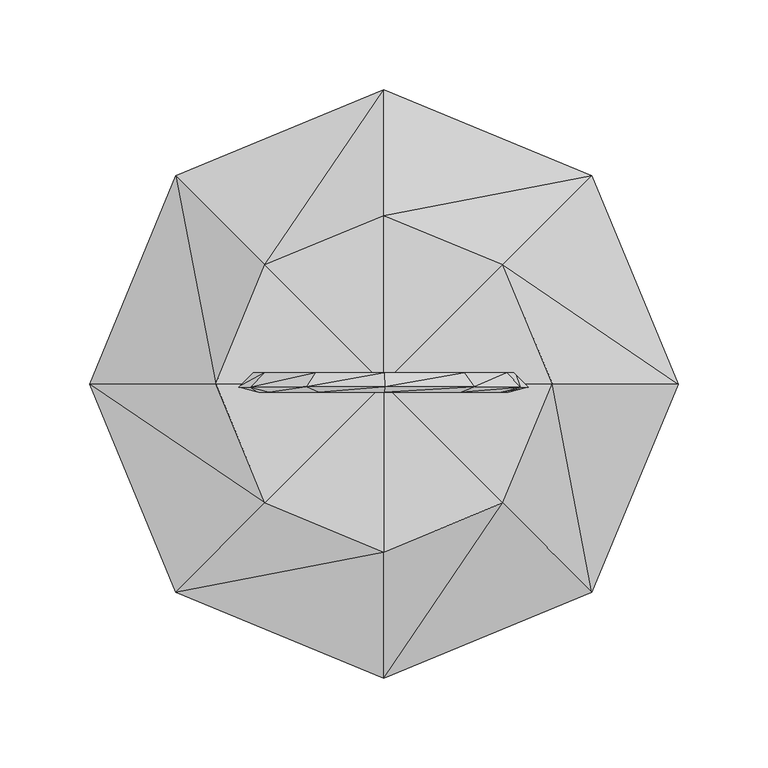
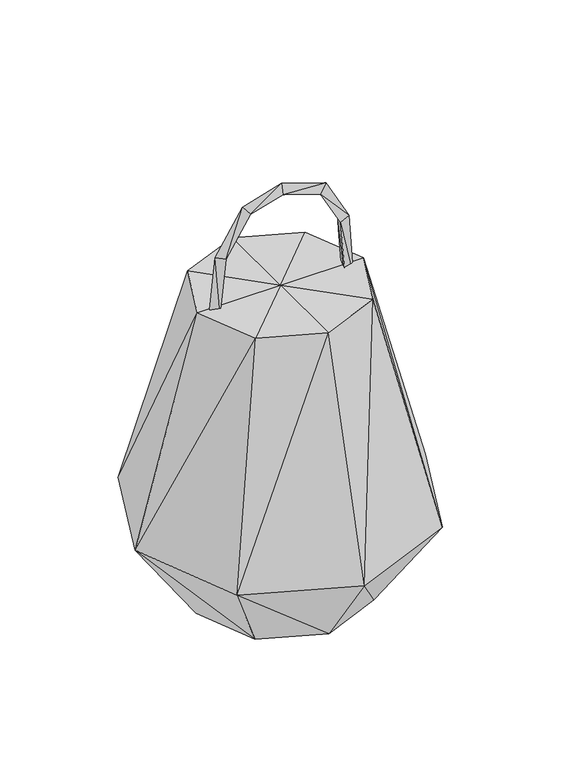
"""IFC4 building model written with IfcOpenShell, lengths in millimetres: geographic element geometry, Enscape AssetDefinition - Candle Lantern 02 : Enscape AssetDefinition - Candle Lantern 02."""

import ifcopenshell
import ifcopenshell.guid

model = None  # the IFC model being written
_history = None  # IfcOwnerHistory: only IFC2X3 demands one
_inside = {}  # id of a spatial element -> (the spatial element, [elements in it])
_under = {}  # id of a project, library or spatial element -> (it, [spatial elements below it])
_declared = {}  # id of a project -> (the project, [libraries it declares])
_typed = {}  # id of a type object -> (the type object, [elements of that type])
_made_of = {}  # id of a material, layer set ... -> (it, [elements and type objects made of it])


def new_model(schema):
    """Start an empty IFC model of exactly this schema.

    Asked for "IFC4X3", IfcOpenShell would pick the latest addendum, in which some entities
    have other attributes; the version numbers below select the first issue.
    IFC2X3 requires an IfcOwnerHistory on every rooted entity: one is made here for all.
    """
    global model, _history
    if schema == "IFC4X3":
        model = ifcopenshell.file(schema_version=(4, 3, 0, 0))
    else:
        model = ifcopenshell.file(schema=schema)
    _inside.clear()
    _under.clear()
    _declared.clear()
    _typed.clear()
    _made_of.clear()
    _history = None
    if model.schema == "IFC2X3":
        org = make("IfcOrganization", Name="unknown")
        user = make(
            "IfcPersonAndOrganization",
            ThePerson=make("IfcPerson", FamilyName="unknown"),
            TheOrganization=org,
        )
        app = make(
            "IfcApplication",
            ApplicationDeveloper=org,
            Version="unknown",
            ApplicationFullName="unknown",
            ApplicationIdentifier="unknown",
        )
        _history = make(
            "IfcOwnerHistory",
            OwningUser=user,
            OwningApplication=app,
            ChangeAction="ADDED",
            CreationDate=0,
        )
    return model


def make(cls, **values):
    """One entity of the class cls with the attributes given. An attribute that is None is left unset."""
    return model.create_entity(
        cls, **{name: value for name, value in values.items() if value is not None}
    )


def rooted(cls, **values):
    """An entity with a GlobalId (a new one), such as an element, a storey or a relation."""
    return make(cls, GlobalId=ifcopenshell.guid.new(), OwnerHistory=_history, **values)


def si_unit(unit_type, name, prefix=None):
    """IfcSIUnit, for example si_unit("LENGTHUNIT", "METRE", prefix="MILLI")."""
    return make("IfcSIUnit", UnitType=unit_type, Prefix=prefix, Name=name)


def assignment(units):
    """IfcUnitAssignment: the units of a project."""
    return None if units is None else make("IfcUnitAssignment", Units=units)


def point(xyz):
    """IfcCartesianPoint."""
    return None if xyz is None else make("IfcCartesianPoint", Coordinates=xyz)


def direction(xyz):
    """IfcDirection."""
    return None if xyz is None else make("IfcDirection", DirectionRatios=xyz)


def frame(location, z_axis=None, x_axis=None):
    """IfcAxis2Placement3D, a coordinate frame: its origin and axes. An axis left out is left unset."""
    return make(
        "IfcAxis2Placement3D",
        Location=point(location),
        Axis=direction(z_axis),
        RefDirection=direction(x_axis),
    )


def origin():
    """The frame at (0, 0, 0) with its axes left unset."""
    return frame((0.0, 0.0, 0.0))


def place(relative_to, where):
    """IfcLocalPlacement: puts the frame where relative to a parent placement (None: the world)."""
    return make(
        "IfcLocalPlacement", PlacementRelTo=relative_to, RelativePlacement=where
    )


def context(
    kind, dimensions, precision=None, world=None, true_north=None, identifier=None
):
    """IfcGeometricRepresentationContext, for example the 3D "Model" context."""
    return make(
        "IfcGeometricRepresentationContext",
        ContextIdentifier=identifier,
        ContextType=kind,
        CoordinateSpaceDimension=dimensions,
        Precision=precision,
        WorldCoordinateSystem=world,
        TrueNorth=true_north,
    )


def project(units=None, contexts=None):
    """IfcProject with its units and contexts."""
    return rooted(
        "IfcProject",
        Name="project",
        RepresentationContexts=contexts,
        UnitsInContext=assignment(units),
    )


def spatial(cls, under=None, at=None, **own):
    """A site, building, storey or space (cls), placed at a placement, below another one or the project."""
    s = rooted(cls, ObjectPlacement=at, **own)
    if under is not None:
        _under.setdefault(under.id(), (under, []))[1].append(s)
    return s


def faces_of(points, faces, orient=None, outer=None):
    """IfcFace entities. A face is a list of loops; a loop is a list of indices into points, from 0.

    orient and outer hold one flag for each loop. By default every Orientation is true, the
    first loop of a face is its IfcFaceOuterBound and the others are IfcFaceBound.
    """
    made = []
    for i, loops in enumerate(faces):
        bounds = []
        for j, loop in enumerate(loops):
            is_outer = j == 0 if outer is None else outer[i][j]
            bounds.append(
                make(
                    "IfcFaceOuterBound" if is_outer else "IfcFaceBound",
                    Bound=make("IfcPolyLoop", Polygon=[points[k] for k in loop]),
                    Orientation=True if orient is None else orient[i][j],
                )
            )
        made.append(make("IfcFace", Bounds=bounds))
    return made


def faceted_brep(points, faces, orient=None, outer=None, voids=None):
    """IfcFacetedBrep: a solid bounded by flat faces; with voids (closed shells), ...WithVoids."""
    shared = [point(p) for p in points]
    hull = make("IfcClosedShell", CfsFaces=faces_of(shared, faces, orient, outer))
    if voids is None:
        return make("IfcFacetedBrep", Outer=hull)
    return make(
        "IfcFacetedBrepWithVoids",
        Outer=hull,
        Voids=[
            make(cls, CfsFaces=faces_of(shared, fs, o, b)) for cls, fs, o, b in voids
        ],
    )


def shape(context_of_items, identifier, shape_type, items):
    """IfcShapeRepresentation: the items that make up one representation, for example the "Body"."""
    return make(
        "IfcShapeRepresentation",
        ContextOfItems=context_of_items,
        RepresentationIdentifier=identifier,
        RepresentationType=shape_type,
        Items=items,
    )


def source(mapping_origin, context_of_items, identifier, shape_type, items):
    """IfcRepresentationMap: a shape defined once, which mapped items show again and again."""
    return make(
        "IfcRepresentationMap",
        MappingOrigin=mapping_origin,
        MappedRepresentation=shape(context_of_items, identifier, shape_type, items),
    )


def transform(
    local_origin,
    x_axis=None,
    y_axis=None,
    z_axis=None,
    scale=None,
    scale2=None,
    scale3=None,
    uniform=True,
):
    """IfcCartesianTransformationOperator3D, or its non-uniform kind. x_axis, y_axis, z_axis: its Axis1, 2, 3."""
    if uniform:
        return make(
            "IfcCartesianTransformationOperator3D",
            Axis1=direction(x_axis),
            Axis2=direction(y_axis),
            LocalOrigin=point(local_origin),
            Scale=scale,
            Axis3=direction(z_axis),
        )
    return make(
        "IfcCartesianTransformationOperator3DnonUniform",
        Axis1=direction(x_axis),
        Axis2=direction(y_axis),
        LocalOrigin=point(local_origin),
        Scale=scale,
        Axis3=direction(z_axis),
        Scale2=scale2,
        Scale3=scale3,
    )


def mapped(mapping_source, mapping_target):
    """IfcMappedItem: shows the shape of a source again, moved by a transform."""
    return make(
        "IfcMappedItem", MappingSource=mapping_source, MappingTarget=mapping_target
    )


def made_of(thing, what):
    """Note that an element or type object is made of a material, layer set ...; save() writes the relation."""
    if what is not None:
        _made_of.setdefault(what.id(), (what, []))[1].append(thing)
    return thing


def element(
    cls,
    number,
    at=None,
    inside=None,
    cuts=None,
    type_object=None,
    material=None,
    context=None,
    identifier="Body",
    shape_type=None,
    held_by="IfcProductDefinitionShape",
    body=None,
    shapes=None,
    **own,
):
    """One element of the class cls, such as IfcWall. Its Tag is "e" and its number.

    at: its placement. inside: the storey or other place that contains it. cuts: it is an
    opening in that element (IfcRelVoidsElement). A single representation is given by context,
    identifier, shape_type and body (its items); several are given by shapes. held_by: the class
    of the entity that holds the representations. save() writes the other relations.
    """
    e = rooted(cls, Tag="e%d" % number, ObjectPlacement=at, **own)
    if body is not None:
        shapes = [shape(context, identifier, shape_type, body)]
    if shapes is not None:
        e.Representation = make(held_by, Representations=shapes)
    if inside is not None:
        _inside.setdefault(inside.id(), (inside, []))[1].append(e)
    if cuts is not None:
        rooted(
            "IfcRelVoidsElement", RelatingBuildingElement=cuts, RelatedOpeningElement=e
        )
    if type_object is not None:
        _typed.setdefault(type_object.id(), (type_object, []))[1].append(e)
    return made_of(e, material)


def aggregate(whole, parts):
    """IfcRelAggregates: a whole, such as a stair, and the parts it consists of."""
    return rooted("IfcRelAggregates", RelatingObject=whole, RelatedObjects=parts)


def save(model, path):
    """Write the relations noted so far, then the file.

    IfcRelAggregates (storeys below a building ...), IfcRelContainedInSpatialStructure (elements
    in a storey), IfcRelDefinesByType, IfcRelAssociatesMaterial and IfcRelDeclares: one each for
    every whole, place, type object, material and project.
    """
    for whole, parts in _under.values():
        aggregate(whole, parts)
    for where, things in _inside.values():
        rooted(
            "IfcRelContainedInSpatialStructure",
            RelatedElements=things,
            RelatingStructure=where,
        )
    for kind, things in _typed.values():
        rooted("IfcRelDefinesByType", RelatedObjects=things, RelatingType=kind)
    for what, things in _made_of.values():
        rooted("IfcRelAssociatesMaterial", RelatedObjects=things, RelatingMaterial=what)
    for by, libraries in _declared.values():
        rooted("IfcRelDeclares", RelatingContext=by, RelatedDefinitions=libraries)
    model.write(path)


def geographic_element_45d98eec(model_context):
    return source(origin(), model_context, "Body", "Brep", [
        faceted_brep([(-75.745143, -1.704903, 417.7333117), (-71.7353672, -4.6578399, 351.4791429), (-65.0571063, -4.6578501, 414.0322208), (-82.6936364, -1.7048925, 352.6490927), (-74.6716261, 6.3627092, 351.7926037), (-67.920953, 6.3626985, 415.0239229), (-44.6966104, -1.7049111, 467.2169387), (-37.5892147, -4.6578571, 457.8092098), (-39.4936353, 6.3626915, 460.3300095), (-0.8331827, -1.7049132, 479.9999893), (-1.0707725, -4.657859, 468.4517384), (-1.0071102, 6.3626897, 471.5460539), (49.1554067, -1.7049105, 463.1721079), (41.5521786, -4.6578567, 454.1033804), (43.5894579, 6.362692, 456.5333426), (75.014323, -1.7049027, 415.8454835), (64.1915202, -4.6578497, 412.6691222), (67.0914799, 6.3626994, 413.5202467), (80.3200826, -1.7048906, 341.1033154), (69.3272054, -4.657838, 340.3229415), (72.2727329, 6.3627111, 340.5320644)], [[[0, 1, 2]], [[1, 3, 4]], [[1, 0, 3]], [[4, 2, 1]], [[2, 4, 5]], [[6, 2, 7]], [[2, 6, 0]], [[5, 7, 2]], [[5, 3, 0]], [[8, 0, 6]], [[0, 8, 5]], [[3, 5, 4]], [[7, 5, 8]], [[9, 7, 10]], [[7, 9, 6]], [[8, 10, 7]], [[11, 6, 9]], [[6, 11, 8]], [[10, 8, 11]], [[12, 10, 13]], [[10, 12, 9]], [[11, 13, 10]], [[14, 9, 12]], [[9, 14, 11]], [[13, 11, 14]], [[15, 13, 16]], [[13, 15, 12]], [[14, 16, 13]], [[17, 12, 15]], [[12, 17, 14]], [[16, 14, 17]], [[18, 16, 19]], [[16, 18, 15]], [[17, 19, 16]], [[20, 15, 18]], [[15, 20, 17]], [[19, 17, 20]], [[19, 20, 18]]]),
        faceted_brep([(162.7824455, 9e-07, 99.0377665), (93.7145352, -3.1e-06, 0.0), (65.8976436, 67.1559125, 0.0), (114.736028, -115.9943268, 99.0377665), (65.8976361, -67.1559423, 0.0), (-1.2582851, -4.6e-06, 0.0), (114.7360355, 115.9943193, 99.0377665), (-1.2582886, 94.9728042, 0.0), (65.0879964, 66.3462654, 357.7875197), (92.5695151, -3.4e-06, 357.7875197), (-1.2582839, -164.0407294, 99.0377665), (65.087989, -66.3462952, 357.7875197), (-1.2582827, -4.6e-06, 357.7875495), (-1.2582887, 93.827799, 357.7875197), (-1.2582931, 164.0407294, 99.0377665), (-67.6045641, 66.3462654, 357.7875197), (-95.0860828, -1.16e-05, 357.7875197), (-67.6045492, -66.3462952, 357.7875197), (-1.2582836, -93.8278064, 357.7875197), (-117.2525734, -115.9943268, 99.0377665), (-165.2990282, -1.35e-05, 99.0377665), (-117.2526032, 115.9943193, 99.0377665), (-68.4142113, 67.1559125, 0.0), (-96.2310955, -1.14e-05, 0.0), (-68.4141964, -67.1559423, 0.0), (-1.2582833, -94.9728265, 0.0)], [[[0, 1, 2]], [[3, 4, 1]], [[5, 2, 1]], [[5, 1, 4]], [[3, 1, 0]], [[6, 2, 7]], [[5, 7, 2]], [[0, 2, 6]], [[0, 6, 8]], [[3, 0, 9]], [[0, 8, 9]], [[10, 3, 11]], [[10, 4, 3]], [[3, 9, 11]], [[12, 9, 8]], [[12, 11, 9]], [[12, 8, 13]], [[6, 13, 8]], [[6, 14, 13]], [[6, 7, 14]], [[12, 13, 15]], [[14, 15, 13]], [[12, 15, 16]], [[12, 16, 17]], [[12, 17, 18]], [[12, 18, 11]], [[10, 11, 18]], [[19, 10, 18]], [[19, 18, 17]], [[20, 19, 17]], [[20, 17, 16]], [[21, 20, 16]], [[21, 16, 15]], [[14, 21, 15]], [[14, 7, 22]], [[14, 22, 21]], [[21, 22, 23]], [[21, 23, 20]], [[20, 23, 24]], [[20, 24, 19]], [[19, 24, 25]], [[19, 25, 10]], [[5, 24, 23]], [[5, 25, 24]], [[5, 23, 22]], [[5, 22, 7]], [[5, 4, 25]], [[10, 25, 4]]]),
    ])


if __name__ == "__main__":
    model = new_model("IFC4")
    model_context = context("Model", 3, world=origin())
    ifc_project = project(units=[si_unit("LENGTHUNIT", "METRE", prefix="MILLI")], contexts=[model_context])
    site = spatial("IfcSite", under=ifc_project)
    building = spatial("IfcBuilding", under=site)
    placement = place(None, origin())
    geographic_element_shape = geographic_element_45d98eec(model_context)
    element("IfcGeographicElement", 1, ObjectType="Enscape AssetDefinition - Candle Lantern 02 : Enscape AssetDefinition - Candle Lantern 02", at=placement, inside=building, context=model_context, shape_type="MappedRepresentation", body=[
        mapped(geographic_element_shape, transform((0.0, 0.0, 0.0), x_axis=(1.0, 0.0, 0.0), y_axis=(0.0, 1.0, 0.0), z_axis=(0.0, 0.0, 1.0))),
    ])
    save(model, "model.ifc")
